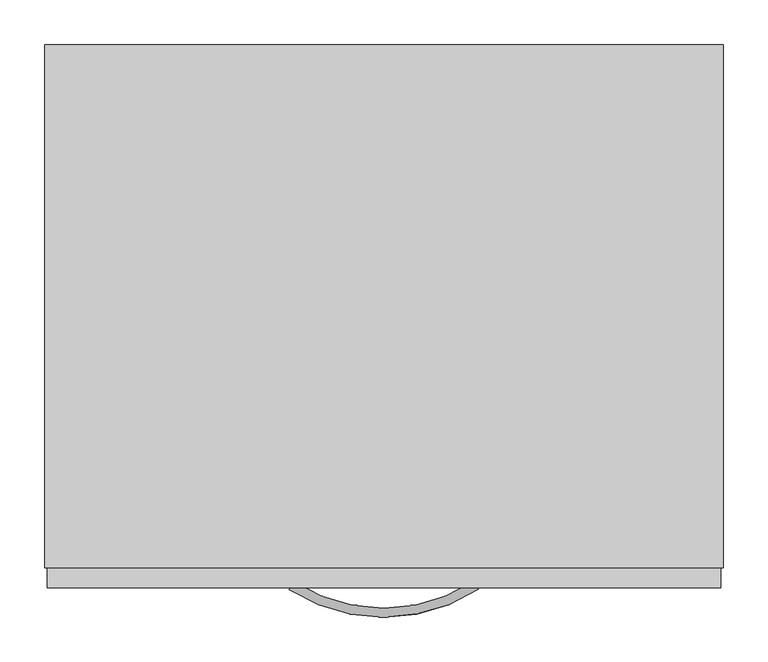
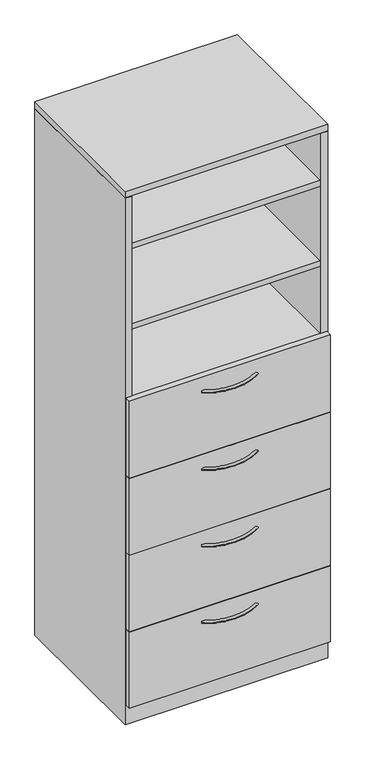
"""IFC4 building model written with IfcOpenShell, lengths in millimetres: furniture geometry, Steelcase - Universal Storage - Cabinet - Combination - Proud Steel : 83 1/2H - Open Cabinet/4 Drawers - 24D x 30W."""

import ifcopenshell
import ifcopenshell.guid

model = None  # the IFC model being written
_history = None  # IfcOwnerHistory: only IFC2X3 demands one
_inside = {}  # id of a spatial element -> (the spatial element, [elements in it])
_under = {}  # id of a project, library or spatial element -> (it, [spatial elements below it])
_declared = {}  # id of a project -> (the project, [libraries it declares])
_typed = {}  # id of a type object -> (the type object, [elements of that type])
_made_of = {}  # id of a material, layer set ... -> (it, [elements and type objects made of it])


def new_model(schema):
    """Start an empty IFC model of exactly this schema.

    Asked for "IFC4X3", IfcOpenShell would pick the latest addendum, in which some entities
    have other attributes; the version numbers below select the first issue.
    IFC2X3 requires an IfcOwnerHistory on every rooted entity: one is made here for all.
    """
    global model, _history
    if schema == "IFC4X3":
        model = ifcopenshell.file(schema_version=(4, 3, 0, 0))
    else:
        model = ifcopenshell.file(schema=schema)
    _inside.clear()
    _under.clear()
    _declared.clear()
    _typed.clear()
    _made_of.clear()
    _history = None
    if model.schema == "IFC2X3":
        org = make("IfcOrganization", Name="unknown")
        user = make(
            "IfcPersonAndOrganization",
            ThePerson=make("IfcPerson", FamilyName="unknown"),
            TheOrganization=org,
        )
        app = make(
            "IfcApplication",
            ApplicationDeveloper=org,
            Version="unknown",
            ApplicationFullName="unknown",
            ApplicationIdentifier="unknown",
        )
        _history = make(
            "IfcOwnerHistory",
            OwningUser=user,
            OwningApplication=app,
            ChangeAction="ADDED",
            CreationDate=0,
        )
    return model


def make(cls, **values):
    """One entity of the class cls with the attributes given. An attribute that is None is left unset."""
    return model.create_entity(
        cls, **{name: value for name, value in values.items() if value is not None}
    )


def rooted(cls, **values):
    """An entity with a GlobalId (a new one), such as an element, a storey or a relation."""
    return make(cls, GlobalId=ifcopenshell.guid.new(), OwnerHistory=_history, **values)


def si_unit(unit_type, name, prefix=None):
    """IfcSIUnit, for example si_unit("LENGTHUNIT", "METRE", prefix="MILLI")."""
    return make("IfcSIUnit", UnitType=unit_type, Prefix=prefix, Name=name)


def assignment(units):
    """IfcUnitAssignment: the units of a project."""
    return None if units is None else make("IfcUnitAssignment", Units=units)


def point(xyz):
    """IfcCartesianPoint."""
    return None if xyz is None else make("IfcCartesianPoint", Coordinates=xyz)


def direction(xyz):
    """IfcDirection."""
    return None if xyz is None else make("IfcDirection", DirectionRatios=xyz)


def frame(location, z_axis=None, x_axis=None):
    """IfcAxis2Placement3D, a coordinate frame: its origin and axes. An axis left out is left unset."""
    return make(
        "IfcAxis2Placement3D",
        Location=point(location),
        Axis=direction(z_axis),
        RefDirection=direction(x_axis),
    )


def origin():
    """The frame at (0, 0, 0) with its axes left unset."""
    return frame((0.0, 0.0, 0.0))


def place(relative_to, where):
    """IfcLocalPlacement: puts the frame where relative to a parent placement (None: the world)."""
    return make(
        "IfcLocalPlacement", PlacementRelTo=relative_to, RelativePlacement=where
    )


def context(
    kind, dimensions, precision=None, world=None, true_north=None, identifier=None
):
    """IfcGeometricRepresentationContext, for example the 3D "Model" context."""
    return make(
        "IfcGeometricRepresentationContext",
        ContextIdentifier=identifier,
        ContextType=kind,
        CoordinateSpaceDimension=dimensions,
        Precision=precision,
        WorldCoordinateSystem=world,
        TrueNorth=true_north,
    )


def project(units=None, contexts=None):
    """IfcProject with its units and contexts."""
    return rooted(
        "IfcProject",
        Name="project",
        RepresentationContexts=contexts,
        UnitsInContext=assignment(units),
    )


def spatial(cls, under=None, at=None, **own):
    """A site, building, storey or space (cls), placed at a placement, below another one or the project."""
    s = rooted(cls, ObjectPlacement=at, **own)
    if under is not None:
        _under.setdefault(under.id(), (under, []))[1].append(s)
    return s


def polyline(points):
    """IfcPolyline through the points."""
    return make("IfcPolyline", Points=[point(p) for p in points])


def circle_curve(where, radius):
    """IfcCircle in the frame where."""
    return make("IfcCircle", Position=where, Radius=radius)


def ellipse_curve(where, semi_axis1, semi_axis2):
    """IfcEllipse in the frame where."""
    return make(
        "IfcEllipse", Position=where, SemiAxis1=semi_axis1, SemiAxis2=semi_axis2
    )


def trimmed(basis, trim1, trim2, sense, master):
    """IfcTrimmedCurve: the piece of a basis curve between two trims."""
    return make(
        "IfcTrimmedCurve",
        BasisCurve=basis,
        Trim1=trim1,
        Trim2=trim2,
        SenseAgreement=sense,
        MasterRepresentation=master,
    )


def outline(outer, holes=None, kind="AREA"):
    """IfcArbitraryClosedProfileDef: a profile drawn as a closed curve; with holes, ...WithVoids."""
    if holes is None:
        return make("IfcArbitraryClosedProfileDef", ProfileType=kind, OuterCurve=outer)
    return make(
        "IfcArbitraryProfileDefWithVoids",
        ProfileType=kind,
        OuterCurve=outer,
        InnerCurves=holes,
    )


def extrude(swept, where, along, depth):
    """IfcExtrudedAreaSolid: the profile swept, set in the frame where, extruded along a direction by depth."""
    return make(
        "IfcExtrudedAreaSolid",
        SweptArea=swept,
        Position=where,
        ExtrudedDirection=direction(along),
        Depth=depth,
    )


def faces_of(points, faces, orient=None, outer=None):
    """IfcFace entities. A face is a list of loops; a loop is a list of indices into points, from 0.

    orient and outer hold one flag for each loop. By default every Orientation is true, the
    first loop of a face is its IfcFaceOuterBound and the others are IfcFaceBound.
    """
    made = []
    for i, loops in enumerate(faces):
        bounds = []
        for j, loop in enumerate(loops):
            is_outer = j == 0 if outer is None else outer[i][j]
            bounds.append(
                make(
                    "IfcFaceOuterBound" if is_outer else "IfcFaceBound",
                    Bound=make("IfcPolyLoop", Polygon=[points[k] for k in loop]),
                    Orientation=True if orient is None else orient[i][j],
                )
            )
        made.append(make("IfcFace", Bounds=bounds))
    return made


def faceted_brep(points, faces, orient=None, outer=None, voids=None):
    """IfcFacetedBrep: a solid bounded by flat faces; with voids (closed shells), ...WithVoids."""
    shared = [point(p) for p in points]
    hull = make("IfcClosedShell", CfsFaces=faces_of(shared, faces, orient, outer))
    if voids is None:
        return make("IfcFacetedBrep", Outer=hull)
    return make(
        "IfcFacetedBrepWithVoids",
        Outer=hull,
        Voids=[
            make(cls, CfsFaces=faces_of(shared, fs, o, b)) for cls, fs, o, b in voids
        ],
    )


def shape(context_of_items, identifier, shape_type, items):
    """IfcShapeRepresentation: the items that make up one representation, for example the "Body"."""
    return make(
        "IfcShapeRepresentation",
        ContextOfItems=context_of_items,
        RepresentationIdentifier=identifier,
        RepresentationType=shape_type,
        Items=items,
    )


def source(mapping_origin, context_of_items, identifier, shape_type, items):
    """IfcRepresentationMap: a shape defined once, which mapped items show again and again."""
    return make(
        "IfcRepresentationMap",
        MappingOrigin=mapping_origin,
        MappedRepresentation=shape(context_of_items, identifier, shape_type, items),
    )


def transform(
    local_origin,
    x_axis=None,
    y_axis=None,
    z_axis=None,
    scale=None,
    scale2=None,
    scale3=None,
    uniform=True,
):
    """IfcCartesianTransformationOperator3D, or its non-uniform kind. x_axis, y_axis, z_axis: its Axis1, 2, 3."""
    if uniform:
        return make(
            "IfcCartesianTransformationOperator3D",
            Axis1=direction(x_axis),
            Axis2=direction(y_axis),
            LocalOrigin=point(local_origin),
            Scale=scale,
            Axis3=direction(z_axis),
        )
    return make(
        "IfcCartesianTransformationOperator3DnonUniform",
        Axis1=direction(x_axis),
        Axis2=direction(y_axis),
        LocalOrigin=point(local_origin),
        Scale=scale,
        Axis3=direction(z_axis),
        Scale2=scale2,
        Scale3=scale3,
    )


def mapped(mapping_source, mapping_target):
    """IfcMappedItem: shows the shape of a source again, moved by a transform."""
    return make(
        "IfcMappedItem", MappingSource=mapping_source, MappingTarget=mapping_target
    )


def made_of(thing, what):
    """Note that an element or type object is made of a material, layer set ...; save() writes the relation."""
    if what is not None:
        _made_of.setdefault(what.id(), (what, []))[1].append(thing)
    return thing


def element(
    cls,
    number,
    at=None,
    inside=None,
    cuts=None,
    type_object=None,
    material=None,
    context=None,
    identifier="Body",
    shape_type=None,
    held_by="IfcProductDefinitionShape",
    body=None,
    shapes=None,
    **own,
):
    """One element of the class cls, such as IfcWall. Its Tag is "e" and its number.

    at: its placement. inside: the storey or other place that contains it. cuts: it is an
    opening in that element (IfcRelVoidsElement). A single representation is given by context,
    identifier, shape_type and body (its items); several are given by shapes. held_by: the class
    of the entity that holds the representations. save() writes the other relations.
    """
    e = rooted(cls, Tag="e%d" % number, ObjectPlacement=at, **own)
    if body is not None:
        shapes = [shape(context, identifier, shape_type, body)]
    if shapes is not None:
        e.Representation = make(held_by, Representations=shapes)
    if inside is not None:
        _inside.setdefault(inside.id(), (inside, []))[1].append(e)
    if cuts is not None:
        rooted(
            "IfcRelVoidsElement", RelatingBuildingElement=cuts, RelatedOpeningElement=e
        )
    if type_object is not None:
        _typed.setdefault(type_object.id(), (type_object, []))[1].append(e)
    return made_of(e, material)


def aggregate(whole, parts):
    """IfcRelAggregates: a whole, such as a stair, and the parts it consists of."""
    return rooted("IfcRelAggregates", RelatingObject=whole, RelatedObjects=parts)


def save(model, path):
    """Write the relations noted so far, then the file.

    IfcRelAggregates (storeys below a building ...), IfcRelContainedInSpatialStructure (elements
    in a storey), IfcRelDefinesByType, IfcRelAssociatesMaterial and IfcRelDeclares: one each for
    every whole, place, type object, material and project.
    """
    for whole, parts in _under.values():
        aggregate(whole, parts)
    for where, things in _inside.values():
        rooted(
            "IfcRelContainedInSpatialStructure",
            RelatedElements=things,
            RelatingStructure=where,
        )
    for kind, things in _typed.values():
        rooted("IfcRelDefinesByType", RelatedObjects=things, RelatingType=kind)
    for what, things in _made_of.values():
        rooted("IfcRelAssociatesMaterial", RelatedObjects=things, RelatingMaterial=what)
    for by, libraries in _declared.values():
        rooted("IfcRelDeclares", RelatingContext=by, RelatedDefinitions=libraries)
    model.write(path)


def plane_surface(at):
    """IfcPlane: the flat surface through the origin of the frame at, square to its z axis."""
    return make("IfcPlane", Position=at)


def revolved_surface(curve, axis_point, axis_direction):
    """IfcSurfaceOfRevolution: the curve turned about the line through axis_point along axis_direction."""
    return make(
        "IfcSurfaceOfRevolution",
        SweptCurve=make("IfcArbitraryOpenProfileDef", ProfileType="CURVE", Curve=curve),
        AxisPosition=make("IfcAxis1Placement", Location=point(axis_point), Axis=direction(axis_direction)),
    )


def advanced_brep(points, edges, surfaces, faces):
    """IfcAdvancedBrep: a solid bounded by faces that lie on surfaces and meet in shared edges.

    An edge is (start, end): straight between two places in points (the first is 0);
    or (start, end, curve); or (start, end, curve, False) where it runs against its curve.
    A face is (place in surfaces, loops), or (place, loops, False) where it looks against
    its surface's normal. A loop lists edges by number (the first is 1), with a minus sign
    where the edge is run from its end to its start. The first loop is the outer one.
    """
    corners = [point(p) for p in points]
    vertices = [make("IfcVertexPoint", VertexGeometry=c) for c in corners]
    made = []
    for start, end, *more in edges:
        made.append(
            make(
                "IfcEdgeCurve",
                EdgeStart=vertices[start],
                EdgeEnd=vertices[end],
                EdgeGeometry=more[0] if more else make("IfcPolyline", Points=[corners[start], corners[end]]),
                SameSense=more[1] if len(more) > 1 else True,
            )
        )
    hull = []
    for where, loops, *sense in faces:
        bounds = []
        for j, loop in enumerate(loops):
            ring = [make("IfcOrientedEdge", EdgeElement=made[abs(k) - 1], Orientation=k > 0) for k in loop]
            bounds.append(
                make(
                    "IfcFaceOuterBound" if j == 0 else "IfcFaceBound",
                    Bound=make("IfcEdgeLoop", EdgeList=ring),
                    Orientation=True,
                )
            )
        hull.append(make("IfcAdvancedFace", Bounds=bounds, FaceSurface=surfaces[where], SameSense=sense[0] if sense else True))
    return make("IfcAdvancedBrep", Outer=make("IfcClosedShell", CfsFaces=hull))


def furniture_cc79d02b(model_context):
    return source(origin(), model_context, "Body", "SolidModel", [
        extrude(outline(polyline([(736.6000242, 104.6479992), (736.6000242, -454.0250121), (25.4000008, -454.0250121), (25.4000008, 104.6479992), (736.6000242, 104.6479992)])), frame((0.0, 0.0, 1273.1750484), z_axis=(0.0, 0.0, 1.0), x_axis=(1.0, 0.0, 0.0)), (0.0, 0.0, 1.0), 22.2249516),
        extrude(outline(polyline([(736.6000242, 104.6479992), (736.6000242, -454.0250121), (25.4000008, -454.0250121), (25.4000008, 104.6479992), (736.6000242, 104.6479992)])), frame((0.0, 0.0, 1562.7350484), z_axis=(0.0, 0.0, 1.0), x_axis=(1.0, 0.0, 0.0)), (0.0, 0.0, 1.0), 22.2249516),
        extrude(outline(polyline([(736.6000242, 104.6479992), (736.6000242, -454.0250121), (25.4000008, -454.0250121), (25.4000008, 104.6479992), (736.6000242, 104.6479992)])), frame((0.0, 0.0, 1882.7750484), z_axis=(0.0, 0.0, 1.0), x_axis=(1.0, 0.0, 0.0)), (0.0, 0.0, 1.0), 22.2249516),
        advanced_brep(
        [(274.4245932, -481.5705994, 1240.6312742), (279.8977519, -473.0108019, 1240.6312742), (486.7315136, -481.1337636, 1240.6312742), (481.2231767, -472.5965612, 1240.6312742)],
        [
            (0, 1, circle_curve(frame((277.1611726, -477.2907007, 1240.6312742), z_axis=(-0.8424997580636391, 0.5386967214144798, 0.0), x_axis=(0.5386967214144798, 0.8424997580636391, 0.0)), 5.08)),
            (1, 0, circle_curve(frame((277.1611726, -477.2907007, 1240.6312742), z_axis=(-0.8424997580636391, 0.5386967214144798, 0.0), x_axis=(0.5386967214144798, 0.8424997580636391, 0.0)), 5.08)),
            (2, 3, circle_curve(frame((483.9773452, -476.8651624, 1240.6312742), z_axis=(0.8402758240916, 0.5421591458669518, 0.0), x_axis=(-0.5421591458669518, 0.8402758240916, 0.0)), 5.08)),
            (3, 2, circle_curve(frame((483.9773452, -476.8651624, 1240.6312742), z_axis=(0.8402758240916, 0.5421591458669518, 0.0), x_axis=(-0.5421591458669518, 0.8402758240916, 0.0)), 5.08)),
            (3, 1, circle_curve(frame((380.2380004, -316.0827352, 1240.6312742), z_axis=(0.0, 0.0, -1.0), x_axis=(-0.5386967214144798, -0.8424997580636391, 0.0)), 186.2648211)),
            (0, 2, circle_curve(frame((380.2380004, -316.0827352, 1240.6312742), z_axis=(0.0, 0.0, 1.0), x_axis=(-0.5386967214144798, -0.8424997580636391, 0.0)), 196.4248211)),
        ],
        [
            plane_surface(frame((277.5794521, -476.6365286, 1241.4250242), z_axis=(-0.8424997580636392, 0.5386967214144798, 0.0), x_axis=(0.0, 0.0, 1.0))),
            plane_surface(frame((483.5563772, -476.2127171, 1241.4250242), z_axis=(0.8402758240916, 0.5421591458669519, 0.0), x_axis=(0.0, 0.0, 1.0))),
            revolved_surface(trimmed(ellipse_curve(frame((277.1611726, -477.2907007, 1240.6312742), z_axis=(-0.8424997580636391, 0.5386967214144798, 0.0), x_axis=(0.5386967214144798, 0.8424997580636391, 0.0)), 5.08, 5.08), [point((274.4245932, -481.5705994, 1240.6312742))], [point((279.8977519, -473.0108019, 1240.6312742))], True, "CARTESIAN"), (380.2380004, -316.0827352, 1241.4250242), (0.0, 0.0, 1.0)),
            revolved_surface(trimmed(ellipse_curve(frame((277.1611726, -477.2907007, 1240.6312742), z_axis=(-0.8424997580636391, 0.5386967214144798, 0.0), x_axis=(0.5386967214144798, 0.8424997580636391, 0.0)), 5.08, 5.08), [point((279.8977519, -473.0108019, 1240.6312742))], [point((274.4245932, -481.5705994, 1240.6312742))], True, "CARTESIAN"), (380.2380004, -316.0827352, 1241.4250242), (0.0, 0.0, 1.0)),
        ],
        [
            (0, [[1, 2]]),
            (1, [[3, 4]]),
            (2, [[5, -1, 6, -4]]),
            (3, [[-6, -2, -5, -3]]),
        ],
    ),
        advanced_brep(
        [(274.4245932, -481.5705994, 323.56425), (279.8977519, -473.0108019, 323.56425), (486.7315136, -481.1337636, 323.56425), (481.2231767, -472.5965612, 323.56425)],
        [
            (0, 1, circle_curve(frame((277.1611726, -477.2907007, 323.56425), z_axis=(-0.8424997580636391, 0.5386967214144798, 0.0), x_axis=(0.5386967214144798, 0.8424997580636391, 0.0)), 5.08)),
            (1, 0, circle_curve(frame((277.1611726, -477.2907007, 323.56425), z_axis=(-0.8424997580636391, 0.5386967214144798, 0.0), x_axis=(0.5386967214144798, 0.8424997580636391, 0.0)), 5.08)),
            (2, 3, circle_curve(frame((483.9773452, -476.8651624, 323.56425), z_axis=(0.8402758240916, 0.5421591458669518, 0.0), x_axis=(-0.5421591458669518, 0.8402758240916, 0.0)), 5.08)),
            (3, 2, circle_curve(frame((483.9773452, -476.8651624, 323.56425), z_axis=(0.8402758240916, 0.5421591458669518, 0.0), x_axis=(-0.5421591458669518, 0.8402758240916, 0.0)), 5.08)),
            (3, 1, circle_curve(frame((380.2380004, -316.0827352, 323.56425), z_axis=(0.0, 0.0, -1.0), x_axis=(-0.5386967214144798, -0.8424997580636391, 0.0)), 186.2648211)),
            (0, 2, circle_curve(frame((380.2380004, -316.0827352, 323.56425), z_axis=(0.0, 0.0, 1.0), x_axis=(-0.5386967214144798, -0.8424997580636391, 0.0)), 196.4248211)),
        ],
        [
            plane_surface(frame((277.5794521, -476.6365286, 324.358), z_axis=(-0.8424997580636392, 0.5386967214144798, 0.0), x_axis=(0.0, 0.0, 1.0))),
            plane_surface(frame((483.5563772, -476.2127171, 324.358), z_axis=(0.8402758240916, 0.5421591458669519, 0.0), x_axis=(0.0, 0.0, 1.0))),
            revolved_surface(trimmed(ellipse_curve(frame((277.1611726, -477.2907007, 323.56425), z_axis=(-0.8424997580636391, 0.5386967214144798, 0.0), x_axis=(0.5386967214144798, 0.8424997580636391, 0.0)), 5.08, 5.08), [point((274.4245932, -481.5705994, 323.56425))], [point((279.8977519, -473.0108019, 323.56425))], True, "CARTESIAN"), (380.2380004, -316.0827352, 324.358), (0.0, 0.0, 1.0)),
            revolved_surface(trimmed(ellipse_curve(frame((277.1611726, -477.2907007, 323.56425), z_axis=(-0.8424997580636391, 0.5386967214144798, 0.0), x_axis=(0.5386967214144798, 0.8424997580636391, 0.0)), 5.08, 5.08), [point((279.8977519, -473.0108019, 323.56425))], [point((274.4245932, -481.5705994, 323.56425))], True, "CARTESIAN"), (380.2380004, -316.0827352, 324.358), (0.0, 0.0, 1.0)),
        ],
        [
            (0, [[1, 2]]),
            (1, [[3, 4]]),
            (2, [[5, -1, 6, -4]]),
            (3, [[-6, -2, -5, -3]]),
        ],
    ),
        advanced_brep(
        [(274.4245932, -481.5705994, 627.85625), (279.8977519, -473.0108019, 627.85625), (486.7315136, -481.1337636, 627.85625), (481.2231767, -472.5965612, 627.85625)],
        [
            (0, 1, circle_curve(frame((277.1611726, -477.2907007, 627.85625), z_axis=(-0.8424997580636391, 0.5386967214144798, 0.0), x_axis=(0.5386967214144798, 0.8424997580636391, 0.0)), 5.08)),
            (1, 0, circle_curve(frame((277.1611726, -477.2907007, 627.85625), z_axis=(-0.8424997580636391, 0.5386967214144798, 0.0), x_axis=(0.5386967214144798, 0.8424997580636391, 0.0)), 5.08)),
            (2, 3, circle_curve(frame((483.9773452, -476.8651624, 627.85625), z_axis=(0.8402758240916, 0.5421591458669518, 0.0), x_axis=(-0.5421591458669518, 0.8402758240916, 0.0)), 5.08)),
            (3, 2, circle_curve(frame((483.9773452, -476.8651624, 627.85625), z_axis=(0.8402758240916, 0.5421591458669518, 0.0), x_axis=(-0.5421591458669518, 0.8402758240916, 0.0)), 5.08)),
            (3, 1, circle_curve(frame((380.2380004, -316.0827352, 627.85625), z_axis=(0.0, 0.0, -1.0), x_axis=(-0.5386967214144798, -0.8424997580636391, 0.0)), 186.2648211)),
            (0, 2, circle_curve(frame((380.2380004, -316.0827352, 627.85625), z_axis=(0.0, 0.0, 1.0), x_axis=(-0.5386967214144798, -0.8424997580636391, 0.0)), 196.4248211)),
        ],
        [
            plane_surface(frame((277.5794521, -476.6365286, 628.65), z_axis=(-0.8424997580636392, 0.5386967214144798, 0.0), x_axis=(0.0, 0.0, 1.0))),
            plane_surface(frame((483.5563772, -476.2127171, 628.65), z_axis=(0.8402758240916, 0.5421591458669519, 0.0), x_axis=(0.0, 0.0, 1.0))),
            revolved_surface(trimmed(ellipse_curve(frame((277.1611726, -477.2907007, 627.85625), z_axis=(-0.8424997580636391, 0.5386967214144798, 0.0), x_axis=(0.5386967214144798, 0.8424997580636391, 0.0)), 5.08, 5.08), [point((274.4245932, -481.5705994, 627.85625))], [point((279.8977519, -473.0108019, 627.85625))], True, "CARTESIAN"), (380.2380004, -316.0827352, 628.65), (0.0, 0.0, 1.0)),
            revolved_surface(trimmed(ellipse_curve(frame((277.1611726, -477.2907007, 627.85625), z_axis=(-0.8424997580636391, 0.5386967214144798, 0.0), x_axis=(0.5386967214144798, 0.8424997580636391, 0.0)), 5.08, 5.08), [point((279.8977519, -473.0108019, 627.85625))], [point((274.4245932, -481.5705994, 627.85625))], True, "CARTESIAN"), (380.2380004, -316.0827352, 628.65), (0.0, 0.0, 1.0)),
        ],
        [
            (0, [[1, 2]]),
            (1, [[3, 4]]),
            (2, [[5, -1, 6, -4]]),
            (3, [[-6, -2, -5, -3]]),
        ],
    ),
        extrude(outline(polyline([(758.8225413, -479.552), (3.1725353, -479.552), (3.1725353, -457.3261219), (758.8225413, -457.3261219), (758.8225413, -479.552)])), frame((0.0, 0.0, 992.1240349), z_axis=(0.0, 0.0, 1.0), x_axis=(1.0, 0.0, 0.0)), (0.0, 0.0, 1.0), 306.4509893),
        extrude(outline(polyline([(758.8225413, -479.552), (3.1725353, -479.552), (3.1725353, -457.3261219), (758.8225413, -457.3261219), (758.8225413, -479.552)])), frame((0.0, 0.0, 687.3240349), z_axis=(0.0, 0.0, 1.0), x_axis=(1.0, 0.0, 0.0)), (0.0, 0.0, 1.0), 303.2759651),
        advanced_brep(
        [(274.4245932, -481.5705994, 932.65625), (279.8977519, -473.0108019, 932.65625), (486.7315136, -481.1337636, 932.65625), (481.2231767, -472.5965612, 932.65625)],
        [
            (0, 1, circle_curve(frame((277.1611726, -477.2907007, 932.65625), z_axis=(-0.8424997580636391, 0.5386967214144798, 0.0), x_axis=(0.5386967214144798, 0.8424997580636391, 0.0)), 5.08)),
            (1, 0, circle_curve(frame((277.1611726, -477.2907007, 932.65625), z_axis=(-0.8424997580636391, 0.5386967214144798, 0.0), x_axis=(0.5386967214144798, 0.8424997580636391, 0.0)), 5.08)),
            (2, 3, circle_curve(frame((483.9773452, -476.8651624, 932.65625), z_axis=(0.8402758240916, 0.5421591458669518, 0.0), x_axis=(-0.5421591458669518, 0.8402758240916, 0.0)), 5.08)),
            (3, 2, circle_curve(frame((483.9773452, -476.8651624, 932.65625), z_axis=(0.8402758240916, 0.5421591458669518, 0.0), x_axis=(-0.5421591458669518, 0.8402758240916, 0.0)), 5.08)),
            (3, 1, circle_curve(frame((380.2380004, -316.0827352, 932.65625), z_axis=(0.0, 0.0, -1.0), x_axis=(-0.5386967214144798, -0.8424997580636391, 0.0)), 186.2648211)),
            (0, 2, circle_curve(frame((380.2380004, -316.0827352, 932.65625), z_axis=(0.0, 0.0, 1.0), x_axis=(-0.5386967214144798, -0.8424997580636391, 0.0)), 196.4248211)),
        ],
        [
            plane_surface(frame((277.5794521, -476.6365286, 933.45), z_axis=(-0.8424997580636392, 0.5386967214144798, 0.0), x_axis=(0.0, 0.0, 1.0))),
            plane_surface(frame((483.5563772, -476.2127171, 933.45), z_axis=(0.8402758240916, 0.5421591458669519, 0.0), x_axis=(0.0, 0.0, 1.0))),
            revolved_surface(trimmed(ellipse_curve(frame((277.1611726, -477.2907007, 932.65625), z_axis=(-0.8424997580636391, 0.5386967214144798, 0.0), x_axis=(0.5386967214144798, 0.8424997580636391, 0.0)), 5.08, 5.08), [point((274.4245932, -481.5705994, 932.65625))], [point((279.8977519, -473.0108019, 932.65625))], True, "CARTESIAN"), (380.2380004, -316.0827352, 933.45), (0.0, 0.0, 1.0)),
            revolved_surface(trimmed(ellipse_curve(frame((277.1611726, -477.2907007, 932.65625), z_axis=(-0.8424997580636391, 0.5386967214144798, 0.0), x_axis=(0.5386967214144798, 0.8424997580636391, 0.0)), 5.08, 5.08), [point((279.8977519, -473.0108019, 932.65625))], [point((274.4245932, -481.5705994, 932.65625))], True, "CARTESIAN"), (380.2380004, -316.0827352, 933.45), (0.0, 0.0, 1.0)),
        ],
        [
            (0, [[1, 2]]),
            (1, [[3, 4]]),
            (2, [[5, -1, 6, -4]]),
            (3, [[-6, -2, -5, -3]]),
        ],
    ),
        faceted_brep([(25.4000008, -457.3261219, 76.2), (736.6000242, -457.3261219, 76.2), (736.6000242, 104.6479992, 76.2), (25.4000008, 104.6479992, 76.2), (762.0, 130.048, 0.0), (762.0, -457.3261219, 0.0), (0.0, -457.3261219, 0.0), (0.0, 130.048, 0.0), (0.0, 130.048, 2093.976), (762.0, 130.048, 2093.976), (0.0, -457.3261219, 2093.976), (762.0, -457.3261219, 2093.976), (736.6000242, -457.3261219, 2093.976), (25.4000008, -457.3261219, 2093.976), (736.6000242, 104.6479992, 2093.976), (25.4000008, 104.6479992, 2093.976)], [[[0, 1, 2, 3]], [[4, 5, 6, 7]], [[4, 7, 8, 9]], [[8, 7, 6, 10]], [[10, 6, 5, 11, 12, 1, 0, 13]], [[11, 5, 4, 9]], [[14, 12, 11, 9, 8, 10, 13, 15]], [[12, 14, 2, 1]], [[15, 13, 0, 3]], [[14, 15, 3, 2]]]),
        extrude(outline(polyline([(758.8225413, -479.552), (3.1725353, -479.552), (3.1725353, -457.3261219), (758.8225413, -457.3261219), (758.8225413, -479.552)])), frame((0.0, 0.0, 77.724), z_axis=(0.0, 0.0, 1.0), x_axis=(1.0, 0.0, 0.0)), (0.0, 0.0, 1.0), 303.276),
        extrude(outline(polyline([(758.8225413, -479.552), (3.1725353, -479.552), (3.1725353, -457.3261219), (758.8225413, -457.3261219), (758.8225413, -479.552)])), frame((0.0, 0.0, 382.524), z_axis=(0.0, 0.0, 1.0), x_axis=(1.0, 0.0, 0.0)), (0.0, 0.0, 1.0), 303.276),
        extrude(outline(polyline([(762.0, 130.048), (762.0, -457.3261219), (0.0, -457.3261219), (0.0, 130.048), (762.0, 130.048)])), frame((0.0, 0.0, 2095.4999516), z_axis=(0.0, 0.0, 1.0), x_axis=(1.0, 0.0, 0.0)), (0.0, 0.0, 1.0), 25.4000484),
    ])


if __name__ == "__main__":
    model = new_model("IFC4")
    model_context = context("Model", 3, world=origin())
    ifc_project = project(units=[si_unit("LENGTHUNIT", "METRE", prefix="MILLI")], contexts=[model_context])
    site = spatial("IfcSite", under=ifc_project)
    building = spatial("IfcBuilding", under=site)
    placement = place(None, origin())
    furniture_shape = furniture_cc79d02b(model_context)
    element("IfcFurniture", 1, ObjectType="Steelcase - Universal Storage - Cabinet - Combination - Proud Steel : 83 1/2H - Open Cabinet/4 Drawers - 24D x 30W", at=placement, inside=building, context=model_context, shape_type="MappedRepresentation", body=[
        mapped(furniture_shape, transform((0.0, 0.0, 0.0), x_axis=(1.0, 0.0, 0.0), y_axis=(0.0, 1.0, 0.0), z_axis=(0.0, 0.0, 1.0))),
    ])
    save(model, "model.ifc")
